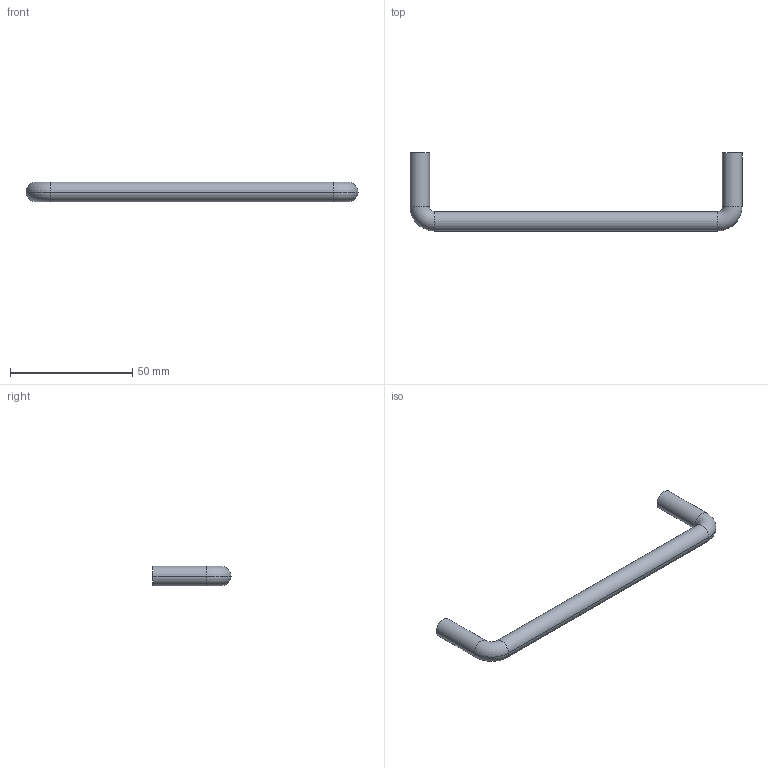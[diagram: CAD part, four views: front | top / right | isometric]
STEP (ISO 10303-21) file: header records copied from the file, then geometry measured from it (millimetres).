
FILE_DESCRIPTION( ( '' ), '1' );
FILE_NAME( 'C:/Documents and Settings/Sachin/Desktop/Sheet 10_1/stp/9070101.stp', '2013-10-22T07:22:23', ( '' ), ( '' ), ' ', ' ', ' ' );
FILE_SCHEMA( ( 'CONFIG_CONTROL_DESIGN' ) );
Length unit declared in the file: millimetre
Products named in the file (1): 1
Bounding box: 136 x 32 x 8 mm (x, y, z)
Volume: 8738.6 mm3; surface area: 4846.8 mm2
Topology: 1 solids, 1 shells, 18 faces, 34 edges, 20 vertices
Faces by surface type: cylinder 10, torus 4, plane 4
Entity records: 502 total; most frequent: DIRECTION 96, CARTESIAN_POINT 73, ORIENTED_EDGE 68, AXIS2_PLACEMENT_3D 43, EDGE_CURVE 34, CIRCLE 24, EDGE_LOOP 20, VERTEX_POINT 20
